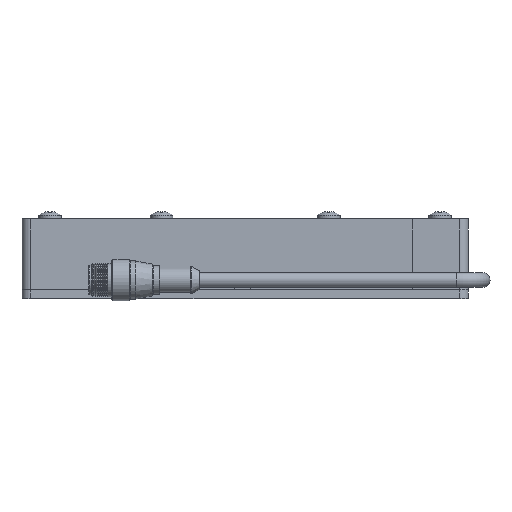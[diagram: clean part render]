
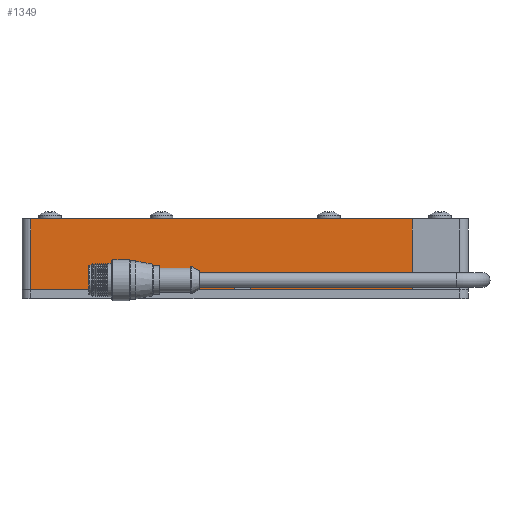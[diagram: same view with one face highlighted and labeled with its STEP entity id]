
A CAD part, front view. The second image highlights one B-rep face of the part: STEP entity #1349.
In plain terms, the highlighted planar face has unit normal (0, -1, 0) as drawn and (0, 0, -1) by its records, which use the part's own axes.
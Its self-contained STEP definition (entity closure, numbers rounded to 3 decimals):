
#381 = FACE_OUTER_BOUND ( 'NONE', #11929, .T. ) ;
#509 = PLANE ( 'NONE',  #13255 ) ;
#583 = CIRCLE ( 'NONE', #9623, 2.381 ) ;
#673 = CARTESIAN_POINT ( 'NONE',  ( 76.825, 12.7, -10. ) ) ;
#779 = VECTOR ( 'NONE', #2620, 1000. ) ;
#1169 = CARTESIAN_POINT ( 'NONE',  ( -60., 12.7, -10. ) ) ;
#1330 = VECTOR ( 'NONE', #10679, 1000. ) ;
#1349 = ADVANCED_FACE ( 'NONE', ( #381 ), #509, .F. ) ;
#1911 = CARTESIAN_POINT ( 'NONE',  ( -80., -12.7, -10. ) ) ;
#1943 = ORIENTED_EDGE ( 'NONE', *, *, #3692, .F. ) ;
#2091 = VERTEX_POINT ( 'NONE', #5622 ) ;
#2324 = EDGE_CURVE ( 'NONE', #2091, #7974, #583, .T. ) ;
#2420 = CARTESIAN_POINT ( 'NONE',  ( -1.921, -12.7, -10. ) ) ;
#2457 = EDGE_CURVE ( 'NONE', #9603, #2091, #12860, .T. ) ;
#2467 = CARTESIAN_POINT ( 'NONE',  ( 1., -6.92, -10. ) ) ;
#2512 = EDGE_CURVE ( 'NONE', #6229, #9123, #3024, .T. ) ;
#2620 = DIRECTION ( 'NONE',  ( 0., 1., 0. ) ) ;
#2806 = CARTESIAN_POINT ( 'NONE',  ( 76.825, -12.7, -10. ) ) ;
#2866 = ORIENTED_EDGE ( 'NONE', *, *, #2512, .F. ) ;
#2895 = LINE ( 'NONE', #11149, #6074 ) ;
#2898 = VERTEX_POINT ( 'NONE', #2806 ) ;
#3024 = LINE ( 'NONE', #4840, #8960 ) ;
#3030 = CARTESIAN_POINT ( 'NONE',  ( 1.54, -9.239, -10. ) ) ;
#3692 = EDGE_CURVE ( 'NONE', #7009, #6229, #2895, .T. ) ;
#3708 = CARTESIAN_POINT ( 'NONE',  ( 3.921, -12.7, -10. ) ) ;
#4385 = DIRECTION ( 'NONE',  ( 0., 0., -1. ) ) ;
#4424 = ORIENTED_EDGE ( 'NONE', *, *, #12640, .T. ) ;
#4470 = CARTESIAN_POINT ( 'NONE',  ( 3.921, -9.239, -10. ) ) ;
#4576 = ORIENTED_EDGE ( 'NONE', *, *, #13256, .T. ) ;
#4725 = AXIS2_PLACEMENT_3D ( 'NONE', #3030, #4385, #8302 ) ;
#4820 = DIRECTION ( 'NONE',  ( -1., 0., 0. ) ) ;
#4840 = CARTESIAN_POINT ( 'NONE',  ( -60., 248.492, -10. ) ) ;
#4943 = ORIENTED_EDGE ( 'NONE', *, *, #6388, .F. ) ;
#5131 = LINE ( 'NONE', #7390, #13213 ) ;
#5414 = CARTESIAN_POINT ( 'NONE',  ( -60., -12.7, -10. ) ) ;
#5586 = ORIENTED_EDGE ( 'NONE', *, *, #7703, .F. ) ;
#5622 = CARTESIAN_POINT ( 'NONE',  ( -1.921, -9.239, -10. ) ) ;
#5727 = DIRECTION ( 'NONE',  ( 1., 0., 0. ) ) ;
#5735 = LINE ( 'NONE', #3708, #1330 ) ;
#5786 = LINE ( 'NONE', #673, #7541 ) ;
#6074 = VECTOR ( 'NONE', #9176, 1000. ) ;
#6229 = VERTEX_POINT ( 'NONE', #1169 ) ;
#6388 = EDGE_CURVE ( 'NONE', #7409, #7266, #5735, .T. ) ;
#7009 = VERTEX_POINT ( 'NONE', #9556 ) ;
#7057 = ORIENTED_EDGE ( 'NONE', *, *, #2324, .F. ) ;
#7266 = VERTEX_POINT ( 'NONE', #10214 ) ;
#7327 = CIRCLE ( 'NONE', #4725, 2.381 ) ;
#7390 = CARTESIAN_POINT ( 'NONE',  ( -80., -12.7, -10. ) ) ;
#7409 = VERTEX_POINT ( 'NONE', #4470 ) ;
#7541 = VECTOR ( 'NONE', #7894, 1000. ) ;
#7693 = DIRECTION ( 'NONE',  ( 0., 0., -1. ) ) ;
#7703 = EDGE_CURVE ( 'NONE', #7974, #7409, #7327, .T. ) ;
#7894 = DIRECTION ( 'NONE',  ( 0., -1., 0. ) ) ;
#7932 = LINE ( 'NONE', #1911, #9013 ) ;
#7974 = VERTEX_POINT ( 'NONE', #2467 ) ;
#8302 = DIRECTION ( 'NONE',  ( 1., 0., 0. ) ) ;
#8731 = DIRECTION ( 'NONE',  ( 0., 0., 1. ) ) ;
#8960 = VECTOR ( 'NONE', #13063, 1000. ) ;
#9013 = VECTOR ( 'NONE', #4820, 1000. ) ;
#9123 = VERTEX_POINT ( 'NONE', #5414 ) ;
#9125 = EDGE_CURVE ( 'NONE', #2898, #7266, #5131, .T. ) ;
#9176 = DIRECTION ( 'NONE',  ( -1., 0., 0. ) ) ;
#9556 = CARTESIAN_POINT ( 'NONE',  ( 76.825, 12.7, -10. ) ) ;
#9603 = VERTEX_POINT ( 'NONE', #2420 ) ;
#9623 = AXIS2_PLACEMENT_3D ( 'NONE', #11987, #7693, #5727 ) ;
#10214 = CARTESIAN_POINT ( 'NONE',  ( 3.921, -12.7, -10. ) ) ;
#10679 = DIRECTION ( 'NONE',  ( 0., -1., 0. ) ) ;
#10690 = CARTESIAN_POINT ( 'NONE',  ( -80., 12.7, -10. ) ) ;
#11149 = CARTESIAN_POINT ( 'NONE',  ( -80., 12.7, -10. ) ) ;
#11283 = DIRECTION ( 'NONE',  ( -1., 0., 0. ) ) ;
#11624 = DIRECTION ( 'NONE',  ( 1., 0., 0. ) ) ;
#11703 = ORIENTED_EDGE ( 'NONE', *, *, #9125, .T. ) ;
#11860 = CARTESIAN_POINT ( 'NONE',  ( -1.921, -12.7, -10. ) ) ;
#11929 = EDGE_LOOP ( 'NONE', ( #7057, #12083, #4424, #2866, #1943, #4576, #11703, #4943, #5586 ) ) ;
#11987 = CARTESIAN_POINT ( 'NONE',  ( 0.46, -9.239, -10. ) ) ;
#12083 = ORIENTED_EDGE ( 'NONE', *, *, #2457, .F. ) ;
#12640 = EDGE_CURVE ( 'NONE', #9603, #9123, #7932, .T. ) ;
#12860 = LINE ( 'NONE', #11860, #779 ) ;
#13063 = DIRECTION ( 'NONE',  ( 0., -1., 0. ) ) ;
#13213 = VECTOR ( 'NONE', #11283, 1000. ) ;
#13255 = AXIS2_PLACEMENT_3D ( 'NONE', #10690, #8731, #11624 ) ;
#13256 = EDGE_CURVE ( 'NONE', #7009, #2898, #5786, .T. ) ;
